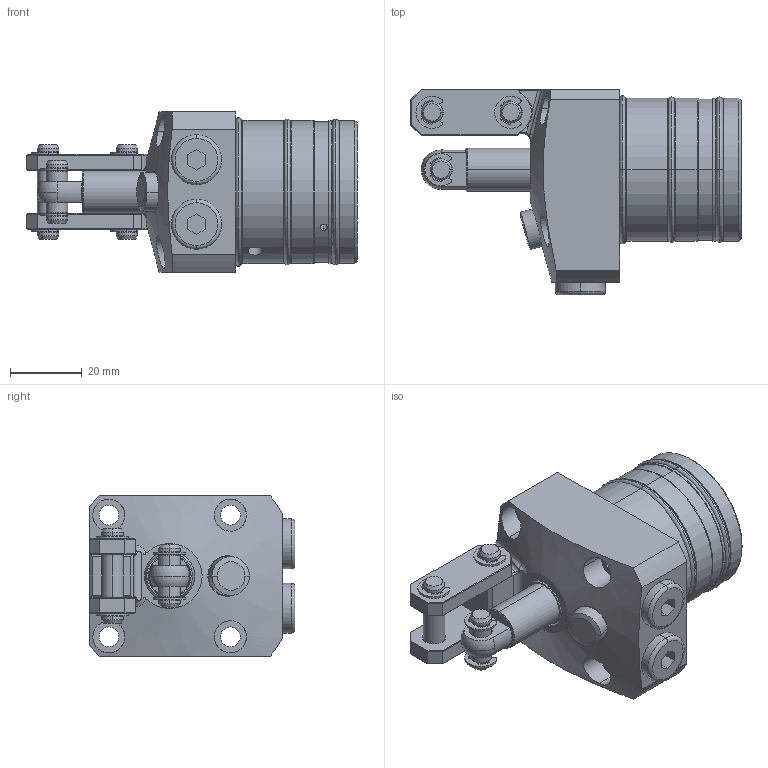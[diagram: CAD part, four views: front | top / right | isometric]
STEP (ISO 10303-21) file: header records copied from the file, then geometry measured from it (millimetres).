
FILE_DESCRIPTION(/* description */ (''),/* implementation_level */ '2;1');
FILE_NAME(/* name */ 'KTPW40-FE.stp',/* time_stamp */ '2022-11-19T15:06:16+08:00',/* author */ (''),/* organization */ (''),/* preprocessor_version */ 'ST-DEVELOPER v16.7',/* originating_system */ 'SIEMENS PLM Software NX 12.0',/* authorisation */ '');
FILE_SCHEMA (('AP203_CONFIGURATION_CONTROLLED_3D_DESIGN_OF_MECHANICAL_PARTS_AND_ASSEMBLIES_MIM_LF { 1 0 10303 403 2 1 2}'));
Length unit declared in the file: millimetre
Products named in the file (11): KTPW40-FE-02; KTPW40-FE-09; KTPW40-FE-04; KTPW40-FE-06; KTPW40-FE-01; KTPW40-FE-010; KTPW40-FE-03; KTPW40-FE-05; KTPW40-FE-07; KTPW40-FE-08; LKW0401-CCE_step
Assembly tree (19 placements, depth 2):
  LKW0401-CCE_step
    KTPW40-FE-08  x2
    KTPW40-FE-07  x6
    KTPW40-FE-05  x2
    KTPW40-FE-03
    KTPW40-FE-010  x2
    KTPW40-FE-01
    KTPW40-FE-06
    KTPW40-FE-04  x2
    KTPW40-FE-09
    KTPW40-FE-02
Bounding box: 92.5 x 57.5 x 45 mm (x, y, z)
Volume: 100783.1 mm3; surface area: 30119.7 mm2
Topology: 22 solids, 26 shells, 702 faces, 1607 edges, 989 vertices
Faces by surface type: cylinder 279, plane 205, torus 122, cone 86, bspline 8, sphere 2
Full cylindrical faces by diameter (mm): 40 x1
Entity records: 14064 total; most frequent: CARTESIAN_POINT 3033, DIRECTION 2214, ORIENTED_EDGE 1808, AXIS2_PLACEMENT_3D 939, EDGE_CURVE 904, VERTEX_POINT 550, CIRCLE 505, EDGE_LOOP 482
